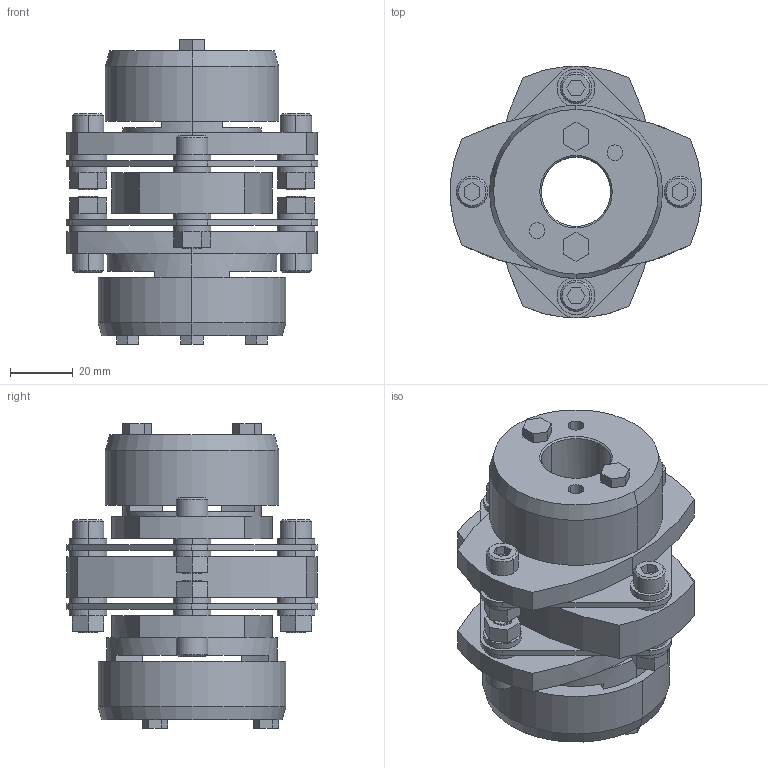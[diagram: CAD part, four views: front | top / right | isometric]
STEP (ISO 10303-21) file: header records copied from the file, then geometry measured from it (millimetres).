
FILE_DESCRIPTION((''),'2;1');
FILE_NAME('LCD-80T7-22×35.stp','2011-09-15T14:26:53',(''),(''),'AutoCAD STEP 2000i','AutoCAD 2000i',', , ');
FILE_SCHEMA(('CONFIG_CONTROL_DESIGN'));
Length unit declared in the file: millimetre
Products named in the file (13): LCD-80T7-22×35; 忣兜1; LC80T7-T035; LC80T7-T032; LC80T7-T030; LC80T7-T024; LC80T7-T022-1; LC80T7-T022; LC80T7-T019-1; LC80T7-T019; LC80T7-T017-1; LC80T7-T017; LCD80-ITA
Assembly tree (12 placements, depth 2):
  LCD-80T7-22×35
    忣兜1
    LC80T7-T035
    LC80T7-T032
    LC80T7-T030
    LC80T7-T024
    LC80T7-T022-1
    LC80T7-T022
    LC80T7-T019-1
    LC80T7-T019
    LC80T7-T017-1
    LC80T7-T017
    LCD80-ITA
Bounding box: 80 x 79.95 x 96.8 mm (x, y, z)
Volume: 177077.1 mm3; surface area: 57892.7 mm2
Topology: 1 solids, 1 shells, 316 faces, 770 edges, 504 vertices
Faces by surface type: plane 172, cylinder 120, cone 24
Entity records: 9633 total; most frequent: DIRECTION 1716, CARTESIAN_POINT 1603, ORIENTED_EDGE 1540, EDGE_CURVE 770, AXIS2_PLACEMENT_3D 617, VERTEX_POINT 504, VECTOR 482, LINE 482
